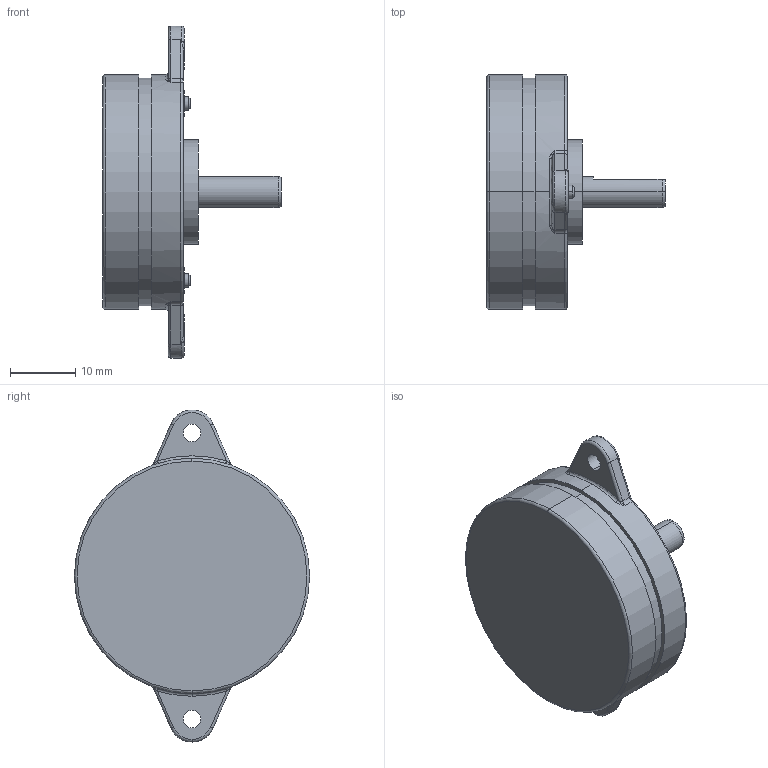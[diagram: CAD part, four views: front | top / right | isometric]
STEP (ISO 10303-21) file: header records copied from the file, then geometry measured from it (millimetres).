
FILE_DESCRIPTION (( 'STEP AP203' ), '1' );
FILE_NAME ('PMSA-B36C0.STEP', '2024-08-26T08:00:37', ( '' ), ( '' ), 'SwSTEP 2.0', 'SolidWorks 2023', '' );
FILE_SCHEMA (( 'CONFIG_CONTROL_DESIGN' ));
Length unit declared in the file: millimetre
Products named in the file (1): PMSA-B36C0
Bounding box: 27.35 x 36 x 50.84 mm (x, y, z)
Volume: 13378.1 mm3; surface area: 4123.7 mm2
Topology: 1 solids, 1 shells, 100 faces, 227 edges, 133 vertices
Faces by surface type: cylinder 37, torus 24, plane 20, bspline 12, cone 7
Entity records: 3098 total; most frequent: CARTESIAN_POINT 795, DIRECTION 503, ORIENTED_EDGE 446, EDGE_CURVE 223, AXIS2_PLACEMENT_3D 221, VERTEX_POINT 133, CIRCLE 132, EDGE_LOOP 112
